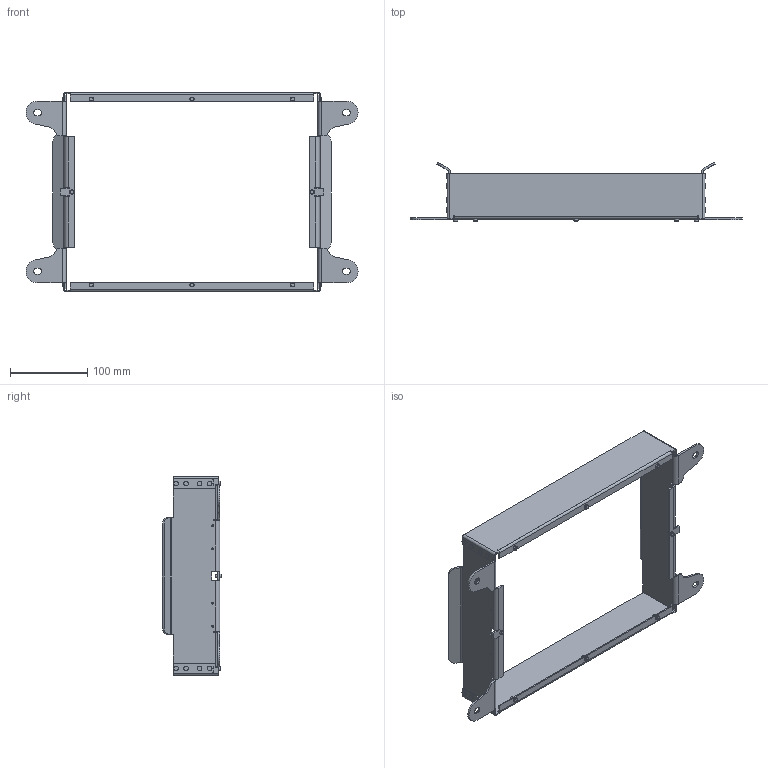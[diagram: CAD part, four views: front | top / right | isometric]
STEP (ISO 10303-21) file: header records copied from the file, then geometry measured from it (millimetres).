
FILE_DESCRIPTION (( 'STEP AP214' ), '1' );
FILE_NAME ('Asyril_PLATFORM FRAME H=60mm - 380_000.102.641_(option).STEP', '2019-04-01T11:56:02', ( 'Standard' ), ( '' ), 'SwSTEP 2.0', 'SolidWorks 2017', '' );
FILE_SCHEMA (( 'AUTOMOTIVE_DESIGN' ));
Length unit declared in the file: millimetre
Products named in the file (1): Asyril_PLATFORM FRAME H=60mm - 380_000.102.641_(option)
Bounding box: 428.99 x 76.51 x 257 mm (x, y, z)
Volume: 184956.4 mm3; surface area: 189109.1 mm2
Topology: 1 solids, 1 shells, 444 faces, 1092 edges, 676 vertices
Faces by surface type: plane 220, cylinder 192, torus 16, cone 16
Entity records: 13326 total; most frequent: DIRECTION 2430, CARTESIAN_POINT 2213, ORIENTED_EDGE 2184, EDGE_CURVE 1092, AXIS2_PLACEMENT_3D 893, VERTEX_POINT 676, LINE 644, VECTOR 644
